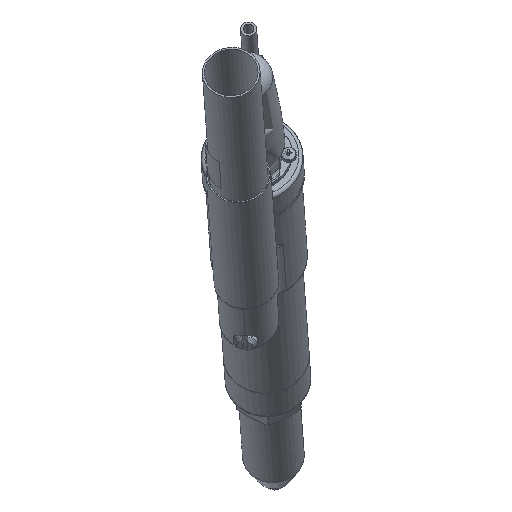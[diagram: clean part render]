
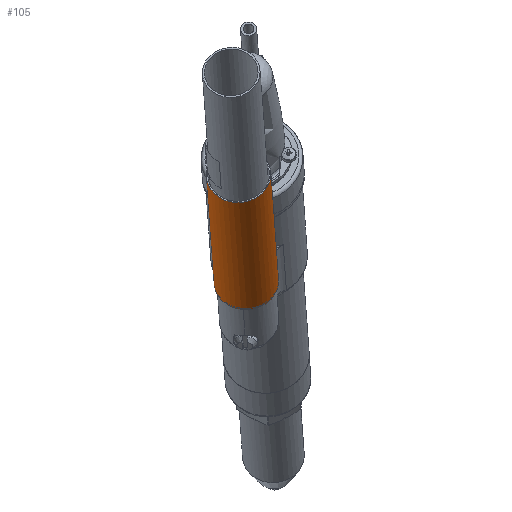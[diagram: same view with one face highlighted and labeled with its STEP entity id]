
A CAD part, front view. The second image highlights one B-rep face of the part: STEP entity #105.
In plain terms, the highlighted cylindrical face has radius 12 mm (diameter 24 mm), a full revolution.
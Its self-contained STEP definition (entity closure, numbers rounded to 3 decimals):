
#55=CARTESIAN_POINT('',(68.89,-250.295,857.791));
#56=DIRECTION('',(0.036,0.866,-0.499));
#57=DIRECTION('',(-0.999,0.021,-0.036));
#58=AXIS2_PLACEMENT_3D('',#55,#56,#57);
#59=CYLINDRICAL_SURFACE('',#58,12.);
#60=CARTESIAN_POINT('',(59.772,-180.764,817.464));
#61=VERTEX_POINT('',#60);
#62=CARTESIAN_POINT('',(56.9,-250.046,857.361));
#63=VERTEX_POINT('',#62);
#64=CARTESIAN_POINT('',(59.772,-180.764,817.464));
#65=DIRECTION('',(-0.036,-0.866,0.499));
#66=VECTOR('',#65,80.);
#67=LINE('',#64,#66);
#68=EDGE_CURVE('',#61,#63,#67,.T.);
#69=ORIENTED_EDGE('',*,*,#68,.T.);
#70=CARTESIAN_POINT('',(68.89,-244.307,868.19));
#71=VERTEX_POINT('',#70);
#72=CARTESIAN_POINT('',(68.89,-250.295,857.791));
#73=DIRECTION('',(-0.036,-0.866,0.499));
#74=DIRECTION('',(0.,0.499,0.867));
#75=AXIS2_PLACEMENT_3D('',#72,#73,#74);
#76=CIRCLE('',#75,12.);
#77=EDGE_CURVE('NONE',#71,#63,#76,.T.);
#78=ORIENTED_EDGE('',*,*,#77,.F.);
#79=CARTESIAN_POINT('',(68.89,-250.295,857.791));
#80=DIRECTION('',(-0.036,-0.866,0.499));
#81=DIRECTION('',(0.,0.499,0.867));
#82=AXIS2_PLACEMENT_3D('',#79,#80,#81);
#83=CIRCLE('',#82,12.);
#84=EDGE_CURVE('NONE',#63,#71,#83,.T.);
#85=ORIENTED_EDGE('',*,*,#84,.F.);
#86=ORIENTED_EDGE('',*,*,#68,.F.);
#87=CARTESIAN_POINT('',(71.762,-175.025,828.294));
#88=VERTEX_POINT('',#87);
#89=CARTESIAN_POINT('',(71.762,-181.013,817.895));
#90=DIRECTION('',(-0.036,-0.866,0.499));
#91=DIRECTION('',(0.,0.499,0.867));
#92=AXIS2_PLACEMENT_3D('',#89,#90,#91);
#93=CIRCLE('',#92,12.);
#94=EDGE_CURVE('NONE',#61,#88,#93,.T.);
#95=ORIENTED_EDGE('',*,*,#94,.T.);
#96=CARTESIAN_POINT('',(71.762,-181.013,817.895));
#97=DIRECTION('',(-0.036,-0.866,0.499));
#98=DIRECTION('',(0.,0.499,0.867));
#99=AXIS2_PLACEMENT_3D('',#96,#97,#98);
#100=CIRCLE('',#99,12.);
#101=EDGE_CURVE('NONE',#88,#61,#100,.T.);
#102=ORIENTED_EDGE('',*,*,#101,.T.);
#103=EDGE_LOOP('',(#69,#78,#85,#86,#95,#102));
#104=FACE_BOUND('',#103,.T.);
#105=ADVANCED_FACE('NONE',(#104),#59,.T.);
